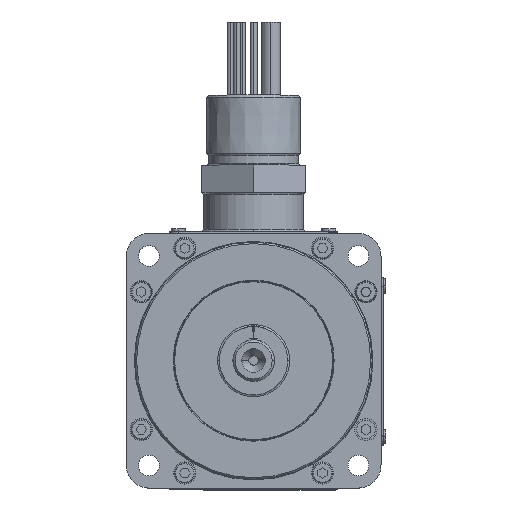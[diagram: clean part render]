
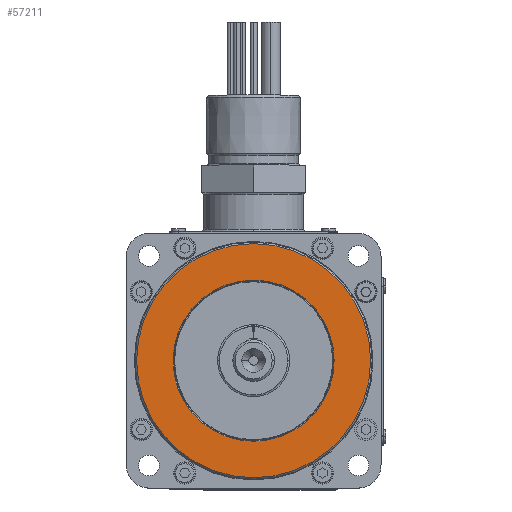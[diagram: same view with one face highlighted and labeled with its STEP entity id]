
A CAD part, top view. The second image highlights one B-rep face of the part: STEP entity #57211.
In plain terms, the highlighted planar face has unit normal (0, 0, 1).
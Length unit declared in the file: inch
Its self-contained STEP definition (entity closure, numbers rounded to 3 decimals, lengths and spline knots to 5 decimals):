
#2862 = CARTESIAN_POINT ( 'NONE',  ( 1.07, 0., -1.2339 ) ) ;
#2864 = CARTESIAN_POINT ( 'NONE',  ( -1.07, 0., -1.2339 ) ) ;
#2872 = CARTESIAN_POINT ( 'NONE',  ( -1.5548, 0., -1.2339 ) ) ;
#2873 = CARTESIAN_POINT ( 'NONE',  ( 1.5548, 0., -1.2339 ) ) ;
#10274 = FACE_BOUND ( 'NONE', #46356, .T. ) ;
#10277 = FACE_OUTER_BOUND ( 'NONE', #46362, .T. ) ;
#12276 = CIRCLE ( 'NONE', #56818, 1.07 ) ;
#12283 = CIRCLE ( 'NONE', #56816, 1.5548 ) ;
#12514 = CIRCLE ( 'NONE', #56925, 1.07 ) ;
#12518 = CIRCLE ( 'NONE', #56927, 1.5548 ) ;
#31105 = ORIENTED_EDGE ( 'NONE', *, *, #49953, .T. ) ;
#31155 = ORIENTED_EDGE ( 'NONE', *, *, #50059, .T. ) ;
#31581 = ORIENTED_EDGE ( 'NONE', *, *, #49956, .F. ) ;
#33742 = ORIENTED_EDGE ( 'NONE', *, *, #50060, .F. ) ;
#42375 = AXIS2_PLACEMENT_3D ( 'NONE', #67882, #67886, #67888 ) ;
#46356 = EDGE_LOOP ( 'NONE', ( #31105, #31155 ) ) ;
#46362 = EDGE_LOOP ( 'NONE', ( #31581, #33742 ) ) ;
#49458 = VERTEX_POINT ( 'NONE', #2862 ) ;
#49460 = VERTEX_POINT ( 'NONE', #2864 ) ;
#49468 = VERTEX_POINT ( 'NONE', #2872 ) ;
#49469 = VERTEX_POINT ( 'NONE', #2873 ) ;
#49953 = EDGE_CURVE ( 'NONE', #49458, #49460, #12276, .T. ) ;
#49956 = EDGE_CURVE ( 'NONE', #49468, #49469, #12283, .T. ) ;
#50059 = EDGE_CURVE ( 'NONE', #49460, #49458, #12514, .T. ) ;
#50060 = EDGE_CURVE ( 'NONE', #49469, #49468, #12518, .T. ) ;
#50746 = CARTESIAN_POINT ( 'NONE',  ( 0., 0., -1.2339 ) ) ;
#50749 = DIRECTION ( 'NONE',  ( 0., 0., -1. ) ) ;
#50751 = DIRECTION ( 'NONE',  ( -1., 0., 0. ) ) ;
#50758 = CARTESIAN_POINT ( 'NONE',  ( 0., 0., -1.2339 ) ) ;
#50762 = DIRECTION ( 'NONE',  ( 0., 0., -1. ) ) ;
#50764 = DIRECTION ( 'NONE',  ( -1., 0., 0. ) ) ;
#51042 = CARTESIAN_POINT ( 'NONE',  ( 0., 0., -1.2339 ) ) ;
#51045 = CARTESIAN_POINT ( 'NONE',  ( 0., 0., -1.2339 ) ) ;
#51049 = DIRECTION ( 'NONE',  ( 0., 0., -1. ) ) ;
#51050 = DIRECTION ( 'NONE',  ( -1., 0., 0. ) ) ;
#51052 = DIRECTION ( 'NONE',  ( 0., 0., -1. ) ) ;
#51053 = DIRECTION ( 'NONE',  ( -1., 0., 0. ) ) ;
#56816 = AXIS2_PLACEMENT_3D ( 'NONE', #50758, #50762, #50764 ) ;
#56818 = AXIS2_PLACEMENT_3D ( 'NONE', #50746, #50749, #50751 ) ;
#56925 = AXIS2_PLACEMENT_3D ( 'NONE', #51042, #51049, #51050 ) ;
#56927 = AXIS2_PLACEMENT_3D ( 'NONE', #51045, #51052, #51053 ) ;
#57211 = ADVANCED_FACE ( 'NONE', ( #10274, #10277 ), #67884, .T. ) ;
#67882 = CARTESIAN_POINT ( 'NONE',  ( 0., 1.5548, -1.2339 ) ) ;
#67884 = PLANE ( 'NONE',  #42375 ) ;
#67886 = DIRECTION ( 'NONE',  ( 0., 0., 1. ) ) ;
#67888 = DIRECTION ( 'NONE',  ( 1., 0., 0. ) ) ;
